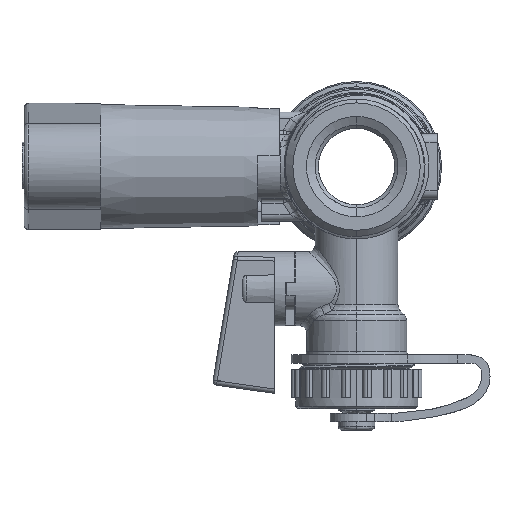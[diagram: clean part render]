
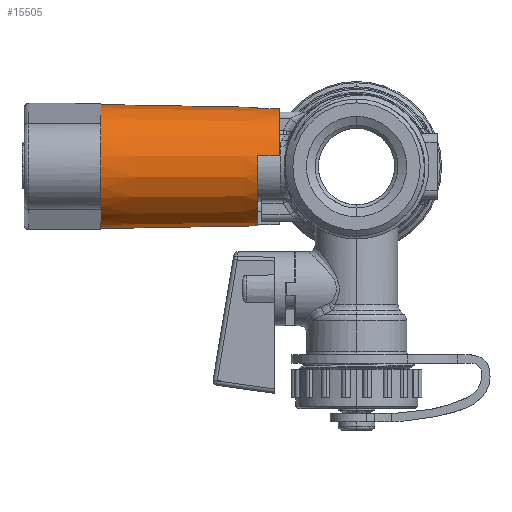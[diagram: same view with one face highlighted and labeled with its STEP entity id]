
A CAD part, left-side view. The second image highlights one B-rep face of the part: STEP entity #15505.
In plain terms, the highlighted conical face has half-angle 1 degrees and reference radius 14.216 mm.
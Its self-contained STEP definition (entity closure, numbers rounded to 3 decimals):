
#3077 = CARTESIAN_POINT ( 'NONE',  ( 0., 0., 5. ) ) ;
#3433 = ORIENTED_EDGE ( 'NONE', *, *, #77855, .T. ) ;
#4024 = DIRECTION ( 'NONE',  ( 0., -1., 0. ) ) ;
#6040 = ORIENTED_EDGE ( 'NONE', *, *, #28368, .T. ) ;
#6181 = CIRCLE ( 'NONE', #81896, 13.587 ) ;
#6380 = CARTESIAN_POINT ( 'NONE',  ( 0., 14.216, 41. ) ) ;
#8739 = CARTESIAN_POINT ( 'NONE',  ( -13.355, -2.5, 5. ) ) ;
#12389 = B_SPLINE_CURVE_WITH_KNOTS ( 'NONE', 3,
 ( #36404, #61871, #15787, #35538 ),
 .UNSPECIFIED., .F., .F.,
 ( 4, 4 ),
 ( 0., 0.005 ),
 .UNSPECIFIED. ) ;
#14246 = CARTESIAN_POINT ( 'NONE',  ( 0., 0., 41. ) ) ;
#14504 = AXIS2_PLACEMENT_3D ( 'NONE', #14246, #20426, #47181 ) ;
#14644 = CIRCLE ( 'NONE', #79093, 13.5 ) ;
#14900 = CARTESIAN_POINT ( 'NONE',  ( -13.326, -2.5, 3.333 ) ) ;
#15505 = ADVANCED_FACE ( 'NONE', ( #66462 ), #37192, .T. ) ;
#15787 = CARTESIAN_POINT ( 'NONE',  ( -2.5, -13.326, 3.333 ) ) ;
#16280 = LINE ( 'NONE', #49190, #41141 ) ;
#16363 = ORIENTED_EDGE ( 'NONE', *, *, #77127, .T. ) ;
#18179 = CARTESIAN_POINT ( 'NONE',  ( 0., -13.587, 5. ) ) ;
#18725 = CIRCLE ( 'NONE', #14504, 14.216 ) ;
#18979 = AXIS2_PLACEMENT_3D ( 'NONE', #32239, #80908, #33098 ) ;
#20007 = EDGE_CURVE ( 'NONE', #35907, #57632, #12389, .T. ) ;
#20426 = DIRECTION ( 'NONE',  ( 0., 0., -1. ) ) ;
#21424 = ORIENTED_EDGE ( 'NONE', *, *, #67196, .T. ) ;
#22955 = ORIENTED_EDGE ( 'NONE', *, *, #79814, .F. ) ;
#24989 = DIRECTION ( 'NONE',  ( 0., 0.017, 1. ) ) ;
#28368 = EDGE_CURVE ( 'NONE', #57632, #33670, #6181, .T. ) ;
#31363 = VECTOR ( 'NONE', #24989, 1000. ) ;
#31944 = CARTESIAN_POINT ( 'NONE',  ( -13.355, -2.5, 5. ) ) ;
#32239 = CARTESIAN_POINT ( 'NONE',  ( 0., 0., 41. ) ) ;
#33043 = CIRCLE ( 'NONE', #79327, 13.587 ) ;
#33098 = DIRECTION ( 'NONE',  ( 0., -1., 0. ) ) ;
#33670 = VERTEX_POINT ( 'NONE', #18179 ) ;
#34659 = ORIENTED_EDGE ( 'NONE', *, *, #57571, .T. ) ;
#35538 = CARTESIAN_POINT ( 'NONE',  ( -2.5, -13.355, 5. ) ) ;
#35907 = VERTEX_POINT ( 'NONE', #41033 ) ;
#36404 = CARTESIAN_POINT ( 'NONE',  ( -2.5, -13.266, 0. ) ) ;
#37192 = CONICAL_SURFACE ( 'NONE', #18979, 14.216, 0.017 ) ;
#40395 = DIRECTION ( 'NONE',  ( 0., -1., 0. ) ) ;
#40815 = CARTESIAN_POINT ( 'NONE',  ( 0., 0., 0. ) ) ;
#41033 = CARTESIAN_POINT ( 'NONE',  ( -2.5, -13.266, 0. ) ) ;
#41141 = VECTOR ( 'NONE', #43045, 1000. ) ;
#41681 = CARTESIAN_POINT ( 'NONE',  ( -13.296, -2.5, 1.667 ) ) ;
#41765 = DIRECTION ( 'NONE',  ( 0., -1., 0. ) ) ;
#42317 = ORIENTED_EDGE ( 'NONE', *, *, #20007, .T. ) ;
#43045 = DIRECTION ( 'NONE',  ( 0., -0.017, 1. ) ) ;
#45169 = CARTESIAN_POINT ( 'NONE',  ( 0., 14.216, 41. ) ) ;
#46457 = LINE ( 'NONE', #45169, #31363 ) ;
#47181 = DIRECTION ( 'NONE',  ( 0., -1., 0. ) ) ;
#49190 = CARTESIAN_POINT ( 'NONE',  ( 0., -14.216, 41. ) ) ;
#50511 = CARTESIAN_POINT ( 'NONE',  ( 0., 13.587, 5. ) ) ;
#51437 = DIRECTION ( 'NONE',  ( 0., 0., 1. ) ) ;
#55008 = VERTEX_POINT ( 'NONE', #31944 ) ;
#57461 = B_SPLINE_CURVE_WITH_KNOTS ( 'NONE', 3,
 ( #8739, #14900, #41681, #68447 ),
 .UNSPECIFIED., .F., .F.,
 ( 4, 4 ),
 ( 0., 0.005 ),
 .UNSPECIFIED. ) ;
#57571 = EDGE_CURVE ( 'NONE', #60540, #55008, #33043, .T. ) ;
#57632 = VERTEX_POINT ( 'NONE', #70752 ) ;
#57851 = VERTEX_POINT ( 'NONE', #78579 ) ;
#60540 = VERTEX_POINT ( 'NONE', #50511 ) ;
#60566 = DIRECTION ( 'NONE',  ( 0., 0., 1. ) ) ;
#61501 = DIRECTION ( 'NONE',  ( 0., 0., 1. ) ) ;
#61871 = CARTESIAN_POINT ( 'NONE',  ( -2.5, -13.296, 1.667 ) ) ;
#65560 = EDGE_CURVE ( 'NONE', #33670, #73997, #16280, .T. ) ;
#66462 = FACE_OUTER_BOUND ( 'NONE', #77220, .T. ) ;
#67196 = EDGE_CURVE ( 'NONE', #57851, #35907, #14644, .T. ) ;
#68447 = CARTESIAN_POINT ( 'NONE',  ( -13.266, -2.5, 0. ) ) ;
#69886 = CARTESIAN_POINT ( 'NONE',  ( 0., 0., 5. ) ) ;
#70752 = CARTESIAN_POINT ( 'NONE',  ( -2.5, -13.355, 5. ) ) ;
#73997 = VERTEX_POINT ( 'NONE', #74566 ) ;
#74566 = CARTESIAN_POINT ( 'NONE',  ( 0., -14.216, 41. ) ) ;
#77127 = EDGE_CURVE ( 'NONE', #55008, #57851, #57461, .T. ) ;
#77220 = EDGE_LOOP ( 'NONE', ( #22955, #34659, #16363, #21424, #42317, #6040, #83599, #3433 ) ) ;
#77855 = EDGE_CURVE ( 'NONE', #73997, #85082, #18725, .T. ) ;
#78579 = CARTESIAN_POINT ( 'NONE',  ( -13.266, -2.5, 0. ) ) ;
#79093 = AXIS2_PLACEMENT_3D ( 'NONE', #40815, #60566, #40395 ) ;
#79327 = AXIS2_PLACEMENT_3D ( 'NONE', #69886, #51437, #4024 ) ;
#79814 = EDGE_CURVE ( 'NONE', #60540, #85082, #46457, .T. ) ;
#80908 = DIRECTION ( 'NONE',  ( 0., 0., 1. ) ) ;
#81896 = AXIS2_PLACEMENT_3D ( 'NONE', #3077, #61501, #41765 ) ;
#83599 = ORIENTED_EDGE ( 'NONE', *, *, #65560, .T. ) ;
#85082 = VERTEX_POINT ( 'NONE', #6380 ) ;
